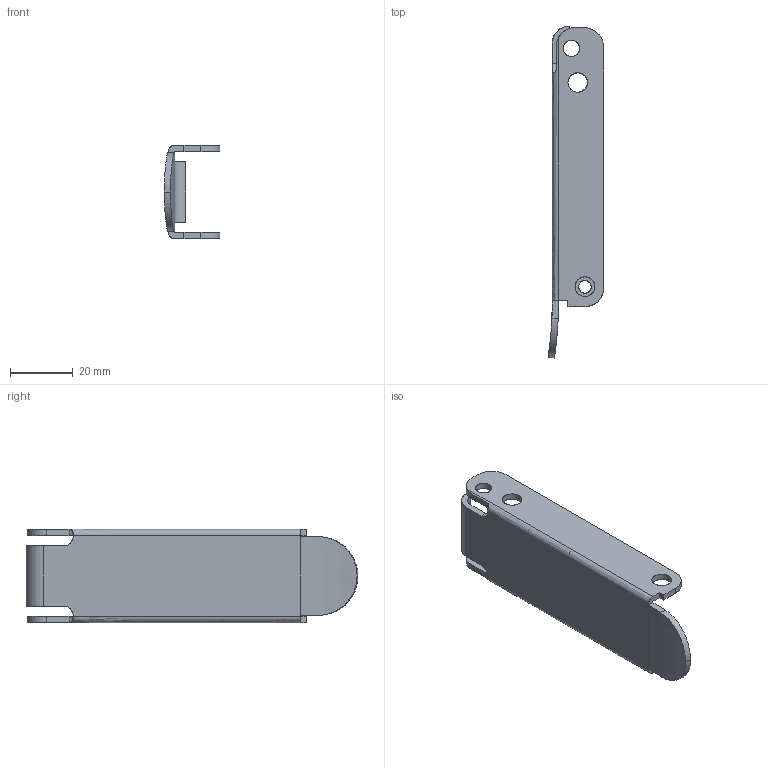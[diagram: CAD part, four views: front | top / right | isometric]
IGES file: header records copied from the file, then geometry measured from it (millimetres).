
Start section: SolidWorks IGES file using analytic representation for surfaces
Global section: file name: C:\Users\cbrechard.SAV\Desktop\GE 82\33.010.10.IGS; native system: SolidWorks 2013; preprocessor: SolidWorks 2013; author: cbrechard; date: 151201.160027; units: millimetre
Bounding box: 17.7 x 105.8 x 29.8 mm (x, y, z)
Surface area: 11302.6 mm2 (no closed solid volume)
Topology: 0 solids, 0 shells, 55 faces, 926 edges, 926 vertices
Faces by surface type: revolution 30, bspline 25
